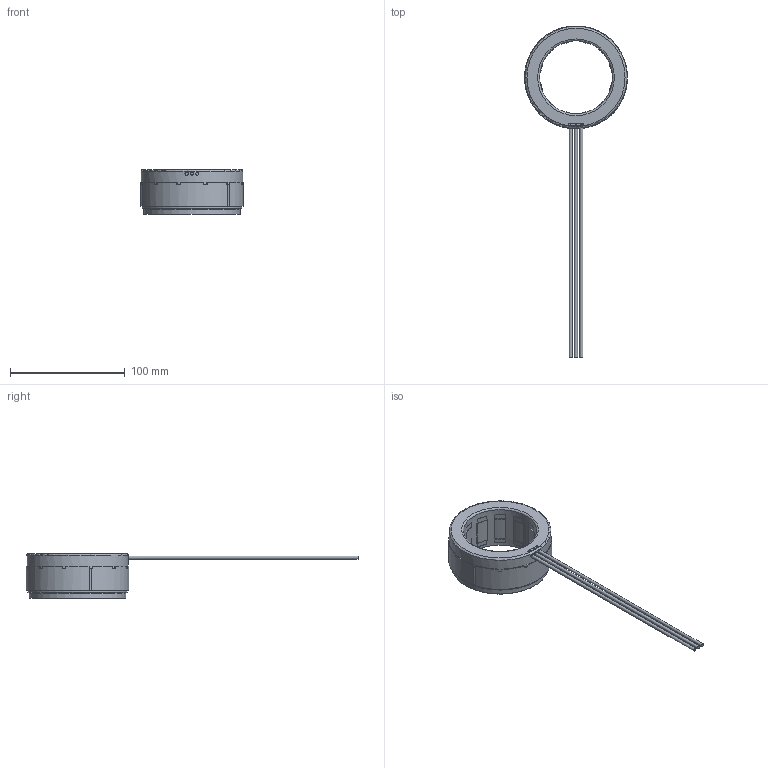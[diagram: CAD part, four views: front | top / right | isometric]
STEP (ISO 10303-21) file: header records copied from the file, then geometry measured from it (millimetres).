
FILE_DESCRIPTION(/* description */ (''),/* implementation_level */ '2;1');
FILE_NAME(/* name */ 'IA-C5BZA.stp',/* time_stamp */ '2023-12-27T18:24:53+09:00',/* author */ (''),/* organization */ (''),/* preprocessor_version */ 'ST-DEVELOPER v18.101',/* originating_system */ 'SIEMENS PLM Software NX 2011',/* authorisation */ '');
FILE_SCHEMA (('AUTOMOTIVE_DESIGN { 1 0 10303 214 3 1 1 1 }'));
Length unit declared in the file: millimetre
Products named in the file (1): IA-C5BZA
Bounding box: 89.72 x 289.85 x 39.25 mm (x, y, z)
Volume: 121527.4 mm3; surface area: 30676.1 mm2
Topology: 4 solids, 5 shells, 279 faces, 743 edges, 492 vertices
Faces by surface type: plane 182, cylinder 80, extrusion 10, torus 7
Full cylindrical faces by diameter (mm): 2.7 x3, 64 x1, 66 x1, 67 x1, 84.5 x1, 87 x1, 88.7 x1
Entity records: 9236 total; most frequent: CARTESIAN_POINT 2206, DIRECTION 1447, ORIENTED_EDGE 1446, EDGE_CURVE 723, AXIS2_PLACEMENT_3D 514, VERTEX_POINT 488, VECTOR 419, LINE 409
